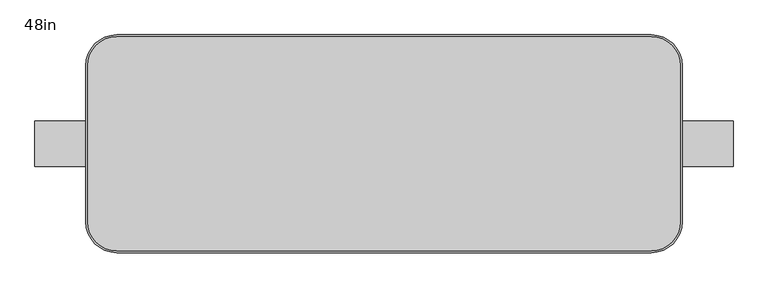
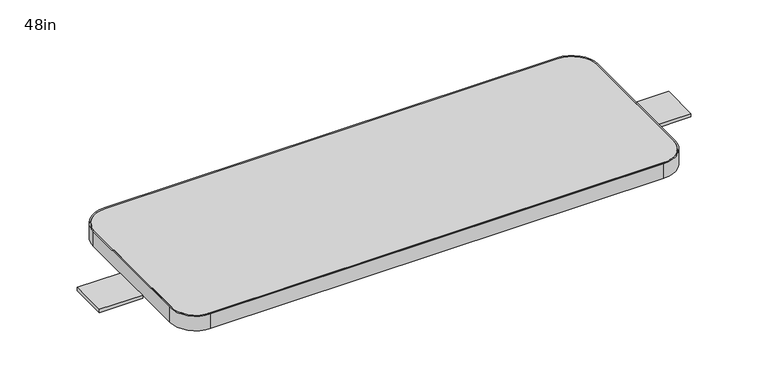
"""IFC4 building model written with IfcOpenShell, lengths in millimetres: furniture geometry, Steelcase - Answer Solution - Transaction Worksurface - Square Trim - 3mm Edge : 48in."""

from ifc_helpers import new_model, si_unit, point, frame, frame_2d, origin, place, context, project, spatial, polyline, circle_curve, trimmed, segment, composite_curve, outline, extrude, source, transform, mapped, element, save


def furniture_48in_ed8b7022(model_context):
    return source(origin(), model_context, "Body", "SweptSolid", [
        extrude(outline(polyline([(88.9003876, 0.0), (88.9003876, -79.3748062), (0.0, -79.3748062), (0.0, 0.0), (88.9003876, 0.0)])), frame((0.0, 0.0, 1044.7273647), z_axis=(0.0, 0.0, 1.0), x_axis=(1.0, 0.0, 0.0)), (0.0, 0.0, 1.0), 7.340613),
        extrude(outline(polyline([(1219.2, 0.0), (1219.2, -79.3748062), (1130.2996124, -79.3748062), (1130.2996124, 0.0), (1219.2, 0.0)])), frame((0.0, 0.0, 1044.7273647), z_axis=(0.0, 0.0, 1.0), x_axis=(1.0, 0.0, 0.0)), (0.0, 0.0, 1.0), 7.340613),
        extrude(outline(composite_curve([segment(trimmed(circle_curve(frame_2d((1076.3248062, 96.8375)), 50.8), [point((1076.3248062, 147.6375))], [point((1127.1248062, 96.8375))], False, "CARTESIAN"), True, "CONTINUOUS"), segment(polyline([(1127.1248062, 96.8375), (1127.1248062, -176.2123062)]), True, "CONTINUOUS"), segment(trimmed(circle_curve(frame_2d((1076.3248062, -176.2123062)), 50.8), [point((1127.1248062, -176.2123062))], [point((1076.3248062, -227.0123062))], False, "CARTESIAN"), True, "CONTINUOUS"), segment(polyline([(1076.3248062, -227.0123062), (142.8751938, -227.0123062)]), True, "CONTINUOUS"), segment(trimmed(circle_curve(frame_2d((142.8751938, -176.2123062)), 50.8), [point((142.8751938, -227.0123062))], [point((92.0751938, -176.2123062))], False, "CARTESIAN"), True, "CONTINUOUS"), segment(polyline([(92.0751938, -176.2123062), (92.0751938, 96.8375)]), True, "CONTINUOUS"), segment(trimmed(circle_curve(frame_2d((142.8751938, 96.8375)), 50.8), [point((92.0751938, 96.8375))], [point((142.8751938, 147.6375))], False, "CARTESIAN"), True, "CONTINUOUS"), segment(polyline([(142.8751938, 147.6375), (1076.3248062, 147.6375)]), True, "CONTINUOUS")], self_intersect=False)), frame((0.0, 0.0, 1052.0679777), z_axis=(0.0, 0.0, 1.0), x_axis=(1.0, 0.0, 0.0)), (0.0, 0.0, 1.0), 31.7500242),
        extrude(outline(composite_curve([segment(polyline([(1076.3248062, -230.1871124), (142.8751938, -230.1871124)]), True, "CONTINUOUS"), segment(trimmed(circle_curve(frame_2d((142.8751938, -176.2123062)), 53.9748062), [point((142.8751938, -230.1871124))], [point((88.9003876, -176.2123062))], False, "CARTESIAN"), True, "CONTINUOUS"), segment(polyline([(88.9003876, -176.2123062), (88.9003876, 96.8375)]), True, "CONTINUOUS"), segment(trimmed(circle_curve(frame_2d((142.8751938, 96.8375)), 53.9748062), [point((88.9003876, 96.8375))], [point((142.8751938, 150.8123062))], False, "CARTESIAN"), True, "CONTINUOUS"), segment(polyline([(142.8751938, 150.8123062), (1076.3248062, 150.8123062)]), True, "CONTINUOUS"), segment(trimmed(circle_curve(frame_2d((1076.3248062, 96.8375)), 53.9748062), [point((1076.3248062, 150.8123062))], [point((1130.2996124, 96.8375))], False, "CARTESIAN"), True, "CONTINUOUS"), segment(polyline([(1130.2996124, 96.8375), (1130.2996124, -176.2123062)]), True, "CONTINUOUS"), segment(trimmed(circle_curve(frame_2d((1076.3248062, -176.2123062)), 53.9748062), [point((1130.2996124, -176.2123062))], [point((1076.3248062, -230.1871124))], False, "CARTESIAN"), True, "CONTINUOUS")], self_intersect=False), holes=[composite_curve([segment(trimmed(circle_curve(frame_2d((142.8751938, 96.8375)), 50.8), [point((142.8751938, 147.6375))], [point((92.0751938, 96.8375))], True, "CARTESIAN"), True, "CONTINUOUS"), segment(polyline([(92.0751938, 96.8375), (92.0751938, -176.2123062)]), True, "CONTINUOUS"), segment(trimmed(circle_curve(frame_2d((142.8751938, -176.2123062)), 50.8), [point((92.0751938, -176.2123062))], [point((142.8751938, -227.0123062))], True, "CARTESIAN"), True, "CONTINUOUS"), segment(polyline([(142.8751938, -227.0123062), (1076.3248062, -227.0123062)]), True, "CONTINUOUS"), segment(trimmed(circle_curve(frame_2d((1076.3248062, -176.2123062)), 50.8), [point((1076.3248062, -227.0123062))], [point((1127.1248062, -176.2123062))], True, "CARTESIAN"), True, "CONTINUOUS"), segment(polyline([(1127.1248062, -176.2123062), (1127.1248062, 96.8375)]), True, "CONTINUOUS"), segment(trimmed(circle_curve(frame_2d((1076.3248062, 96.8375)), 50.8), [point((1127.1248062, 96.8375))], [point((1076.3248062, 147.6375))], True, "CARTESIAN"), True, "CONTINUOUS"), segment(polyline([(1076.3248062, 147.6375), (142.8751938, 147.6375)]), True, "CONTINUOUS")], self_intersect=False)]), frame((0.0, 0.0, 1052.0679777), z_axis=(0.0, 0.0, 1.0), x_axis=(1.0, 0.0, 0.0)), (0.0, 0.0, 1.0), 31.7500242),
    ])


if __name__ == "__main__":
    model = new_model("IFC4")
    model_context = context("Model", 3, world=origin())
    ifc_project = project(units=[si_unit("LENGTHUNIT", "METRE", prefix="MILLI")], contexts=[model_context])
    site = spatial("IfcSite", under=ifc_project)
    building = spatial("IfcBuilding", under=site)
    placement = place(None, origin())
    furniture_48in_shape = furniture_48in_ed8b7022(model_context)
    element("IfcFurniture", 1, ObjectType="Steelcase - Answer Solution - Transaction Worksurface - Square Trim - 3mm Edge : 48in", at=placement, inside=building, context=model_context, shape_type="MappedRepresentation", body=[
        mapped(furniture_48in_shape, transform((0.0, 0.0, 0.0), x_axis=(1.0, 0.0, 0.0), y_axis=(0.0, 1.0, 0.0), z_axis=(0.0, 0.0, 1.0))),
    ])
    save(model, "model.ifc")
